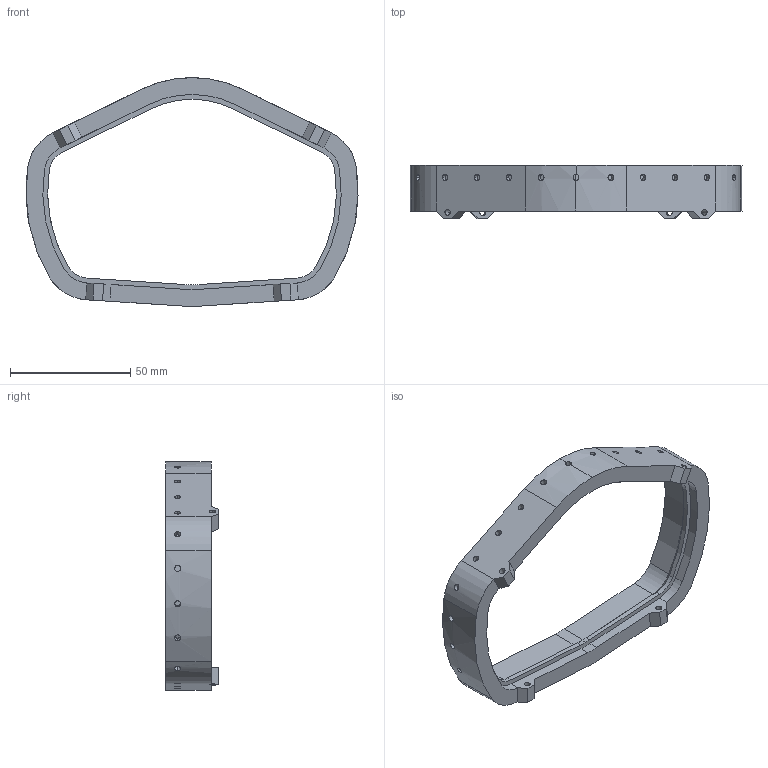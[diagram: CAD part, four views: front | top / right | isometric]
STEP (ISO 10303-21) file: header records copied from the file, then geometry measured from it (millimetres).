
FILE_DESCRIPTION (( 'STEP AP203' ), '1' );
FILE_NAME ('Saugfuß.STEP', '2022-02-25T19:20:43', ( 'Alex' ), ( '' ), 'SwSTEP 2.0', 'SolidWorks 2021', '' );
FILE_SCHEMA (( 'CONFIG_CONTROL_DESIGN' ));
Length unit declared in the file: millimetre
Products named in the file (1): Saugfuß
Bounding box: 138.17 x 22 x 95.2 mm (x, y, z)
Volume: 42968.5 mm3; surface area: 27596.4 mm2
Topology: 1 solids, 1 shells, 171 faces, 483 edges, 310 vertices
Faces by surface type: cylinder 114, plane 48, cone 9
Entity records: 6752 total; most frequent: CARTESIAN_POINT 2101, ORIENTED_EDGE 966, DIRECTION 937, EDGE_CURVE 483, AXIS2_PLACEMENT_3D 346, VERTEX_POINT 310, LINE 245, VECTOR 245
